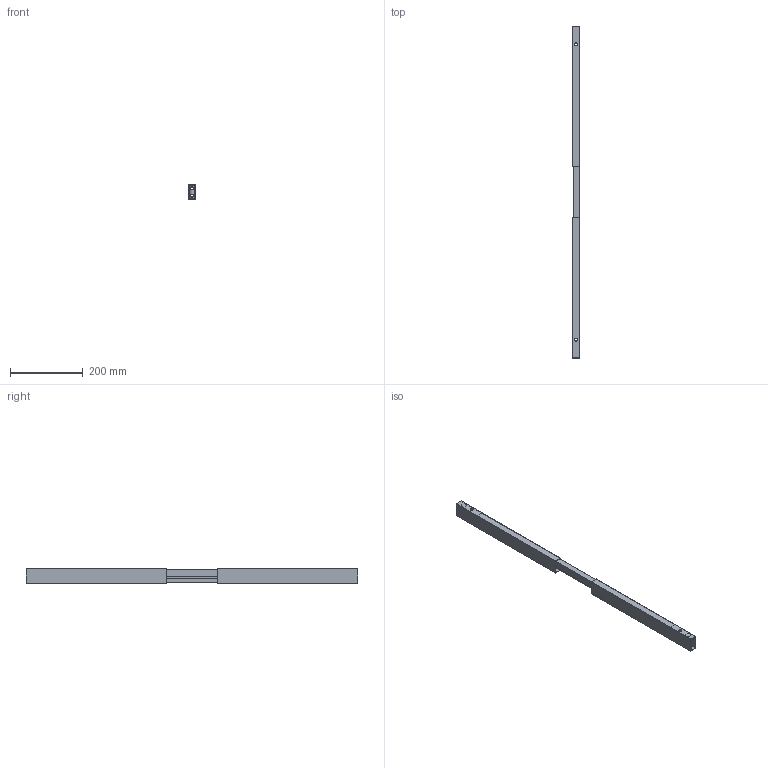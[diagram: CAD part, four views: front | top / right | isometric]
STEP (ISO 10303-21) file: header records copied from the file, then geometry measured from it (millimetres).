
FILE_DESCRIPTION( ( 'STEP AP214' ), '1' );
FILE_NAME( 'D:/Yug/2021/Delta/desk_and_office_organisation/QC/46019.stp', '2021-01-22T12:07:34', ( '' ), ( '' ), ' ', 'PARTsolutions', ' ' );
FILE_SCHEMA( ( 'AUTOMOTIVE_DESIGN { 1 0 10303 214 1 1 1 1 }' ) );
Length unit declared in the file: millimetre
Products named in the file (4): 46019; _46019_1; _46019_3; _46009_2
Assembly tree (3 placements, depth 2):
  46019
    _46019_1
    _46019_3
    _46009_2
Bounding box: 20 x 910 x 40 mm (x, y, z)
Volume: 228561.9 mm3; surface area: 299432.5 mm2
Topology: 3 solids, 3 shells, 63 faces, 177 edges, 120 vertices
Faces by surface type: plane 34, cylinder 29
Full cylindrical faces by diameter (mm): 3 x15, 4 x4, 8 x4, 8.3 x4, 14.5 x2
Entity records: 3084 total; most frequent: CARTESIAN_POINT 875, DIRECTION 318, ORIENTED_EDGE 284, EDGE_LOOP 154, EDGE_CURVE 142, AXIS2_PLACEMENT_3D 117, VERTEX_POINT 114, FACE_OUTER_BOUND 92
